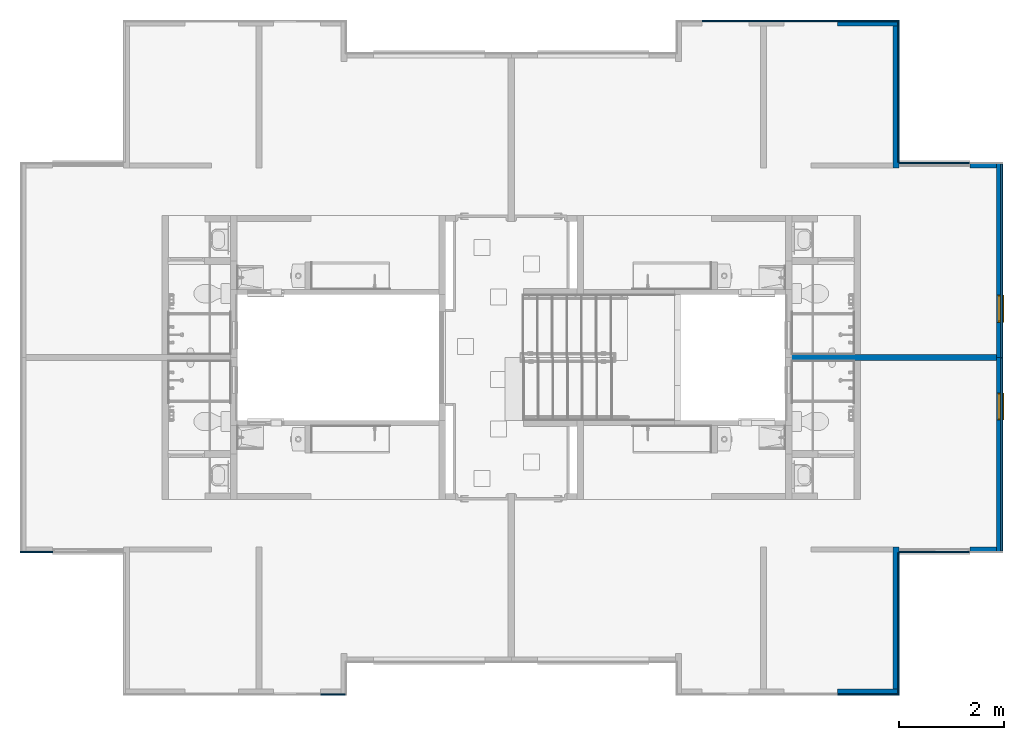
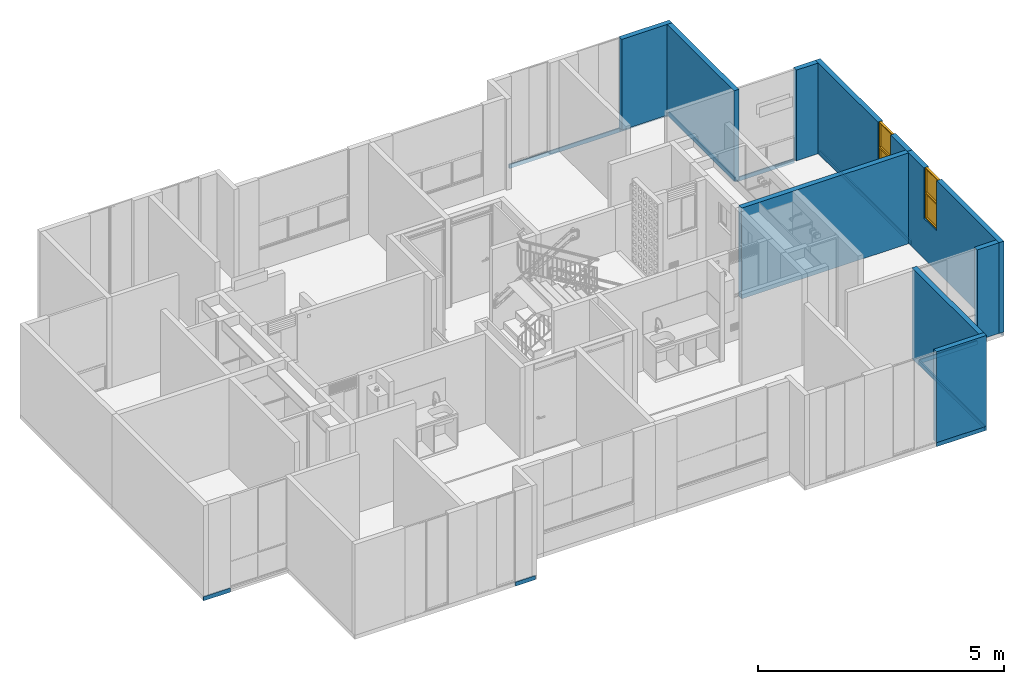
# One storey, part 26 of 48: 20 walls, 2 windows, 2 openings.
"""IFC4 building model written with IfcOpenShell, lengths in metres."""

from ifc_helpers import new_model, entity, si_unit, converted_unit, derived_unit, direction, frame, origin, place, context, subcontext, project, spatial, indexed_curve, outline, extrude, polygons, source, transform, mapped, material, constituent, constituent_set, type_object, type_shapes, element, fill, save


model = new_model("IFC4")

# Units and contexts
model_context = context("Model", 3, precision=1e-05, world=origin(), true_north=direction((6.123031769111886e-17, 1.0)))
body_context = subcontext(model_context, "Body", "Model", "MODEL_VIEW")
ifc_project = project(units=[si_unit("LENGTHUNIT", "METRE"), si_unit("AREAUNIT", "SQUARE_METRE"), si_unit("VOLUMEUNIT", "CUBIC_METRE"), converted_unit("PLANEANGLEUNIT", "DEGREE", entity("IfcRatioMeasure", 0.017453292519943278), si_unit("PLANEANGLEUNIT", "RADIAN"), dimensions=[0, 0, 0, 0, 0, 0, 0]), si_unit("MASSUNIT", "GRAM", prefix="KILO"), derived_unit("MASSDENSITYUNIT", [(si_unit("MASSUNIT", "GRAM", prefix="KILO"), 1), (si_unit("LENGTHUNIT", "METRE"), -3)]), derived_unit("IONCONCENTRATIONUNIT", [(si_unit("MASSUNIT", "GRAM", prefix="KILO"), 1), (si_unit("LENGTHUNIT", "METRE"), -3)]), derived_unit("MOMENTOFINERTIAUNIT", [(si_unit("LENGTHUNIT", "METRE"), 4)]), si_unit("TIMEUNIT", "SECOND"), si_unit("FREQUENCYUNIT", "HERTZ"), si_unit("THERMODYNAMICTEMPERATUREUNIT", "DEGREE_CELSIUS"), derived_unit("THERMALTRANSMITTANCEUNIT", [(si_unit("MASSUNIT", "GRAM", prefix="KILO"), 1), (si_unit("THERMODYNAMICTEMPERATUREUNIT", "KELVIN"), -1), (si_unit("TIMEUNIT", "SECOND"), -3)]), derived_unit("THERMALCONDUCTANCEUNIT", [(si_unit("MASSUNIT", "GRAM", prefix="KILO"), 1), (si_unit("THERMODYNAMICTEMPERATUREUNIT", "KELVIN"), -1), (si_unit("TIMEUNIT", "SECOND"), -3), (si_unit("LENGTHUNIT", "METRE"), 1)]), derived_unit("VOLUMETRICFLOWRATEUNIT", [(si_unit("LENGTHUNIT", "METRE"), 3), (si_unit("TIMEUNIT", "SECOND"), -1)]), derived_unit("MASSFLOWRATEUNIT", [(si_unit("MASSUNIT", "GRAM", prefix="KILO"), 1), (si_unit("TIMEUNIT", "SECOND"), -1)]), derived_unit("ROTATIONALFREQUENCYUNIT", [(si_unit("TIMEUNIT", "SECOND"), -1)]), si_unit("ELECTRICCURRENTUNIT", "AMPERE"), si_unit("ELECTRICVOLTAGEUNIT", "VOLT"), si_unit("POWERUNIT", "WATT"), si_unit("FORCEUNIT", "NEWTON", prefix="KILO"), si_unit("ILLUMINANCEUNIT", "LUX"), si_unit("LUMINOUSFLUXUNIT", "LUMEN"), si_unit("LUMINOUSINTENSITYUNIT", "CANDELA"), derived_unit("USERDEFINED", [(si_unit("MASSUNIT", "GRAM", prefix="KILO"), -1), (si_unit("LENGTHUNIT", "METRE"), -2), (si_unit("TIMEUNIT", "SECOND"), 3), (si_unit("LUMINOUSFLUXUNIT", "LUMEN"), 1)]), derived_unit("USERDEFINED", [(si_unit("MASSUNIT", "GRAM", prefix="KILO"), 1), (si_unit("TIMEUNIT", "SECOND"), -3), (si_unit("LENGTHUNIT", "METRE"), 3), (si_unit("ELECTRICCURRENTUNIT", "AMPERE"), -2)]), derived_unit("SOUNDPOWERUNIT", [(si_unit("MASSUNIT", "GRAM", prefix="KILO"), 1), (si_unit("TIMEUNIT", "SECOND"), -3), (si_unit("LENGTHUNIT", "METRE"), 2)]), derived_unit("SOUNDPRESSUREUNIT", [(si_unit("MASSUNIT", "GRAM", prefix="KILO"), 1), (si_unit("LENGTHUNIT", "METRE"), -1), (si_unit("TIMEUNIT", "SECOND"), -2)]), derived_unit("LINEARVELOCITYUNIT", [(si_unit("LENGTHUNIT", "METRE"), 1), (si_unit("TIMEUNIT", "SECOND"), -1)]), si_unit("PRESSUREUNIT", "PASCAL"), derived_unit("USERDEFINED", [(si_unit("MASSUNIT", "GRAM", prefix="KILO"), 1), (si_unit("LENGTHUNIT", "METRE"), -2), (si_unit("TIMEUNIT", "SECOND"), -2)]), derived_unit("LINEARFORCEUNIT", [(si_unit("MASSUNIT", "GRAM", prefix="KILO"), 1), (si_unit("TIMEUNIT", "SECOND"), -2)]), derived_unit("PLANARFORCEUNIT", [(si_unit("MASSUNIT", "GRAM", prefix="KILO"), 1), (si_unit("LENGTHUNIT", "METRE"), -1), (si_unit("TIMEUNIT", "SECOND"), -2)]), derived_unit("SPECIFICHEATCAPACITYUNIT", [(si_unit("THERMODYNAMICTEMPERATUREUNIT", "KELVIN"), -1), (si_unit("LENGTHUNIT", "METRE"), 2), (si_unit("TIMEUNIT", "SECOND"), -2)]), derived_unit("HEATINGVALUEUNIT", [(si_unit("LENGTHUNIT", "METRE"), 2), (si_unit("TIMEUNIT", "SECOND"), -2)]), derived_unit("VAPORPERMEABILITYUNIT", [(si_unit("LENGTHUNIT", "METRE"), -1), (si_unit("TIMEUNIT", "SECOND"), 1)]), derived_unit("DYNAMICVISCOSITYUNIT", [(si_unit("MASSUNIT", "GRAM", prefix="KILO"), 1), (si_unit("TIMEUNIT", "SECOND"), -1), (si_unit("LENGTHUNIT", "METRE"), -1)]), derived_unit("THERMALEXPANSIONCOEFFICIENTUNIT", [(si_unit("THERMODYNAMICTEMPERATUREUNIT", "KELVIN"), -1)]), derived_unit("MODULUSOFELASTICITYUNIT", [(si_unit("MASSUNIT", "GRAM", prefix="KILO"), 1), (si_unit("LENGTHUNIT", "METRE"), -1), (si_unit("TIMEUNIT", "SECOND"), -2)]), derived_unit("ISOTHERMALMOISTURECAPACITYUNIT", [(si_unit("LENGTHUNIT", "METRE"), 3), (si_unit("MASSUNIT", "GRAM", prefix="KILO"), -1)]), derived_unit("MOISTUREDIFFUSIVITYUNIT", [(si_unit("TIMEUNIT", "SECOND"), -1), (si_unit("LENGTHUNIT", "METRE"), 2)])], contexts=[model_context])

# Site, building, storey
site_placement = place(None, origin())
site = spatial("IfcSite", under=ifc_project, at=site_placement, Name="Default", CompositionType="ELEMENT")
building_placement = place(site_placement, origin())
building = spatial("IfcBuilding", under=site, at=building_placement, CompositionType="ELEMENT")
storey_placement = place(building_placement, frame((0.0, 0.0, 7.050000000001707)))
storey = spatial("IfcBuildingStorey", under=building, at=storey_placement, Name="Nivel 4", CompositionType="ELEMENT", Elevation=7.050000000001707)

# Wall
ifc_material_1 = material(Name="Concreto (Aire)", Category="Materials")
wall_type_1 = type_object("IfcWallType", Name="Basic Wall:B2010 - 0.12m - Muro interior en concreto", PredefinedType="STANDARD")
wall_1_placement = place(storey_placement, frame((18.587500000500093, -6.425000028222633, 0.0), z_axis=(0.0, 0.0, 1.0), x_axis=(-1.0, 0.0, 0.0)))
element("IfcWall", 1, at=wall_1_placement, inside=storey, type_object=wall_type_1, material=ifc_material_1, Name="Basic Wall:B2010 - 0.12m - Muro interior en concreto", ObjectType="Basic Wall:B2010 - 0.12m - Muro interior en concreto", PredefinedType="NOTDEFINED", context=body_context, shape_type="SweptSolid", body=[
    extrude(outline(indexed_curve([(3.914999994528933, 0.06000000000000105), (1.8965521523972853e-16, 0.060000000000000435), (-1.8965521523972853e-16, -0.060000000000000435), (3.914999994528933, -0.05999999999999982), (3.914999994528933, 0.06000000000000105)], self_intersect=False)), origin(), (0.0, 0.0, 1.0), 2.2500000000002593),
])

# Wall, opening, window
ifc_material_2 = material(Name="Ladrillo claro (Aire)", Category="Materials")
wall_type_2 = type_object("IfcWallType", Name="Basic Wall:B2010 - 0.115m - Muro exterior en mampostería - Ladrillo", PredefinedType="STANDARD")
wall_2_placement = place(storey_placement, frame((18.64500000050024, -2.695000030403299, 0.0), z_axis=(0.0, 0.0, 1.0), x_axis=(0.0, -1.0, 0.0)))
wall_2 = element("IfcWall", 2, at=wall_2_placement, inside=storey, type_object=wall_type_2, material=ifc_material_2, Name="Basic Wall:B2010 - 0.115m - Muro exterior en mampostería - Ladrillo", ObjectType="Basic Wall:B2010 - 0.115m - Muro exterior en mampostería - Ladrillo", PredefinedType="NOTDEFINED", context=body_context, shape_type="Tessellation", body=[
    polygons([(3.729999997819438, -0.05750000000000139, 2.2500000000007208), (3.056249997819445, -0.05749999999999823, 2.2500000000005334), (3.056249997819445, -0.05749999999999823, 1.000000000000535), (2.536249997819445, -0.057500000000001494, 1.000000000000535), (2.536249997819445, -0.057500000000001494, 2.250000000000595), (5.414335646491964e-16, -0.05749999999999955, 2.2500000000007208), (5.414335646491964e-16, -0.05749999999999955, 0.0), (3.729999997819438, -0.05750000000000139, 0.0), (3.0562499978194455, 0.05750000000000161, 1.000000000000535), (3.0562499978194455, 0.05750000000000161, 2.2500000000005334), (3.7299999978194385, 0.05750000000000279, 2.2500000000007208), (3.7299999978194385, 0.05750000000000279, 0.0), (5.414335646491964e-16, 0.057500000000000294, 0.0), (5.414335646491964e-16, 0.057500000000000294, 2.2500000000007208), (2.5362499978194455, 0.05750000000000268, 2.250000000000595), (2.5362499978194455, 0.05750000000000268, 1.000000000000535)], [[[1, 2, 3, 4, 5, 6, 7, 8]], [[9, 10, 11, 12, 13, 14, 15, 16]], [[8, 7, 13, 12]], [[1, 8, 12, 11]], [[11, 10, 2, 1]], [[7, 6, 14, 13]], [[5, 4, 16, 15]], [[3, 2, 10, 9]], [[4, 3, 9, 16]], [[15, 14, 6, 5]]], closed=True),
])
opening_1_placement = place(wall_2_placement, frame((2.5362499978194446, -0.057500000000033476, 1.0)))
opening_1 = element("IfcOpeningElement", 3, at=opening_1_placement, cuts=wall_2, Name="B2020 - Ventana batiente - Aluminio + Vidrio:B2020 -0.52m x 1.1.25m - Ventana batiente 2C - Aluminio + Vidrio:1", PredefinedType="OPENING", context=body_context, shape_type="SweptSolid", body=[
    extrude(outline(indexed_curve([(0.0, -1.3535839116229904e-16), (1.2499999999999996, -1.3535839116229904e-16), (1.2499999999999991, 0.5199999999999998), (0.0, 0.5199999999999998), (0.0, -1.3535839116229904e-16)], self_intersect=False)), frame((0.0, 0.0, 0.0), z_axis=(0.0, 1.0, 0.0), x_axis=(0.0, 0.0, 1.0)), (0.0, 0.0, 1.0), 0.115),
])
ifc_material_3 = material(Name="Vidrio", Category="Materials")
ifc_constituent_1 = constituent(ifc_material_3, Name="Vidrio", Category="Materials")
ifc_material_4 = material(Name="Aluminio", Category="Materials")
ifc_constituent_2 = constituent(ifc_material_4, Name="Aluminio", Category="Materials")
ifc_material_5 = material(Name="<Unnamed>")
ifc_constituent_3 = constituent(ifc_material_5, Name="<Unnamed>")
ifc_constituent_set_1 = constituent_set(constituents=[ifc_constituent_1, ifc_constituent_2, ifc_constituent_3])
ifc_constituent_4 = constituent(ifc_material_3, Name="Vidrio", Category="Materials")
ifc_constituent_5 = constituent(ifc_material_4, Name="Aluminio", Category="Materials")
ifc_constituent_6 = constituent(ifc_material_5, Name="<Unnamed>")
ifc_constituent_set_2 = constituent_set(constituents=[ifc_constituent_4, ifc_constituent_5, ifc_constituent_6])
window_type_1 = type_object("IfcWindowType", Name="B2020 - Ventana batiente - Aluminio + Vidrio:B2020 -0.52m x 1.1.25m - Ventana batiente 2C - Aluminio + Vidrio", PartitioningType="NOTDEFINED", PredefinedType="WINDOW", material=ifc_constituent_set_2)
shared_shape_1 = source(origin(), body_context, "Body", "SweptSolid", [
    extrude(outline(indexed_curve([(-0.0020000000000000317, -0.2400000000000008), (0.0019999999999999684, -0.2400000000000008), (0.0020000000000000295, 0.2400000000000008), (-0.0019999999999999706, 0.2400000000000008), (-0.0020000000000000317, -0.2400000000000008)], self_intersect=False)), frame((0.26000000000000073, 0.07013901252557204, 0.01999999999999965), z_axis=(0.0, 0.0, 1.0), x_axis=(0.0, -1.0, 0.0)), (0.0, 0.0, 1.0), 0.585),
    extrude(outline(indexed_curve([(-0.3124999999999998, -0.2599999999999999), (0.3124999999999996, -0.2599999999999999), (0.3124999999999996, 0.2599999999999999), (-0.3124999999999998, 0.2599999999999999), (-0.3124999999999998, -0.2599999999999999)], self_intersect=False), holes=[indexed_curve([(0.2924999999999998, -0.24000000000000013), (-0.2925, -0.24000000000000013), (-0.2925, 0.24000000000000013), (0.2924999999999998, 0.24000000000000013), (0.2924999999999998, -0.24000000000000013)], self_intersect=False)]), frame((0.26000000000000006, 0.032499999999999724, 0.3124999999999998), z_axis=(0.0, 1.0, 0.0), x_axis=(0.0, 0.0, 1.0)), (0.0, 0.0, 1.0), 0.05),
    extrude(outline(indexed_curve([(-0.0020000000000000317, -0.2400000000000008), (0.0019999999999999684, -0.2400000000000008), (0.0020000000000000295, 0.2400000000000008), (-0.0019999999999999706, 0.2400000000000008), (-0.0020000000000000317, -0.2400000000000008)], self_intersect=False)), frame((0.25999999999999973, 0.07013901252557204, 0.6449999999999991), z_axis=(0.0, 0.0, 1.0), x_axis=(0.0, -1.0, 0.0)), (0.0, 0.0, 1.0), 0.585),
    extrude(outline(indexed_curve([(-0.3124999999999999, -0.2599999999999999), (0.3124999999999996, -0.2599999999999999), (0.3124999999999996, 0.25999999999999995), (-0.3124999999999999, 0.2599999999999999), (-0.3124999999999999, -0.2599999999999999)], self_intersect=False), holes=[indexed_curve([(0.2924999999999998, -0.24000000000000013), (-0.2925000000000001, -0.24000000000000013), (-0.2925000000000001, 0.24000000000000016), (0.2924999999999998, 0.24000000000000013), (0.2924999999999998, -0.24000000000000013)], self_intersect=False)]), frame((0.259999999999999, 0.032499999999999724, 0.9374999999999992), z_axis=(0.0, 1.0, 0.0), x_axis=(0.0, 0.0, 1.0)), (0.0, 0.0, 1.0), 0.05),
    extrude(outline(indexed_curve([(2.1899534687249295e-05, 0.0030283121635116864), (0.03002189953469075, 0.0030283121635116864), (0.030021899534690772, 0.008028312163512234), (-0.0013178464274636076, 0.00802831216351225), (-0.030623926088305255, -0.008891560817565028), (-0.02812392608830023, -0.013221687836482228), (2.1899534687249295e-05, 0.0030283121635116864)], self_intersect=False)), frame((0.0, 0.11346687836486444, -0.002611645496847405), z_axis=(1.0, 0.0, 0.0), x_axis=(0.0, 0.8660254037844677, -0.4999999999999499)), (0.0, 0.0, 1.0), 0.520000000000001),
])
type_shapes(window_type_1, [shared_shape_1])
window_1_placement = place(opening_1_placement, origin())
window_1 = element("IfcWindow", 4, at=window_1_placement, inside=storey, type_object=window_type_1, material=ifc_constituent_set_1, Name="B2020 - Ventana batiente - Aluminio + Vidrio:B2020 -0.52m x 1.1.25m - Ventana batiente 2C - Aluminio + Vidrio", ObjectType="B2020 - Ventana batiente - Aluminio + Vidrio:B2020 -0.52m x 1.1.25m - Ventana batiente 2C - Aluminio + Vidrio", OverallHeight=1.2499999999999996, OverallWidth=0.5199999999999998, PartitioningType="NOTDEFINED", PredefinedType="WINDOW", context=body_context, shape_type="MappedRepresentation", body=[
    mapped(shared_shape_1, transform((0.0, 0.0, 0.0), scale=1.0)),
])
fill(opening_1, window_1)

# Wall
wall_3_placement = place(storey_placement, frame((16.670000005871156, -2.8100000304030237, 0.0), z_axis=(0.0, 0.0, 1.0), x_axis=(0.0, 1.0, 0.0)))
element("IfcWall", 5, at=wall_3_placement, inside=storey, type_object=wall_type_2, material=ifc_material_2, Name="Basic Wall:B2010 - 0.115m - Muro exterior en mampostería - Ladrillo", ObjectType="Basic Wall:B2010 - 0.115m - Muro exterior en mampostería - Ladrillo", PredefinedType="NOTDEFINED", context=body_context, shape_type="SweptSolid", body=[
    extrude(outline(indexed_curve([(2.7150000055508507, 0.057499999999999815), (1.0301981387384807e-16, 0.057499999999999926), (-1.0301981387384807e-16, -0.057499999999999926), (2.7150000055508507, -0.05750000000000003), (2.7150000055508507, 0.057499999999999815)], self_intersect=False)), origin(), (0.0, 0.0, 1.0), 2.2500000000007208),
])

# Wall, opening, window
wall_4_placement = place(storey_placement, frame((18.645000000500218, -10.15500002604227, 0.0), z_axis=(0.0, 0.0, 1.0), x_axis=(0.0, 1.0, 0.0)))
wall_4 = element("IfcWall", 6, at=wall_4_placement, inside=storey, type_object=wall_type_2, material=ifc_material_2, Name="Basic Wall:B2010 - 0.115m - Muro exterior en mampostería - Ladrillo", ObjectType="Basic Wall:B2010 - 0.115m - Muro exterior en mampostería - Ladrillo", PredefinedType="NOTDEFINED", context=body_context, shape_type="Tessellation", body=[
    polygons([(3.729999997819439, -0.05750000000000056, 2.2500000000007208), (3.05624999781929, -0.05749999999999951, 2.2500000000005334), (3.05624999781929, -0.05749999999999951, 1.000000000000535), (2.5362499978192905, -0.05749999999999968, 1.000000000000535), (2.5362499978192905, -0.05749999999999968, 2.250000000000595), (0.0, -0.057499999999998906, 2.2500000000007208), (0.0, -0.057499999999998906, 0.0), (3.729999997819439, -0.05750000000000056, 0.0), (3.056249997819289, 0.057500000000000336, 1.000000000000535), (3.056249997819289, 0.057500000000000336, 2.2500000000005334), (3.729999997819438, 0.05750000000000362, 2.2500000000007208), (3.729999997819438, 0.05750000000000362, 0.0), (0.0, 0.05750000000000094, 0.0), (0.0, 0.05750000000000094, 2.2500000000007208), (2.5362499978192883, 0.05750000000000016, 2.250000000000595), (2.5362499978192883, 0.05750000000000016, 1.000000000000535)], [[[1, 2, 3, 4, 5, 6, 7, 8]], [[9, 10, 11, 12, 13, 14, 15, 16]], [[8, 7, 13, 12]], [[1, 8, 12, 11]], [[11, 10, 2, 1]], [[7, 6, 14, 13]], [[5, 4, 16, 15]], [[3, 2, 10, 9]], [[4, 3, 9, 16]], [[15, 14, 6, 5]]], closed=True),
])
opening_2_placement = place(wall_4_placement, frame((3.056249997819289, 0.05750000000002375, 1.0)))
opening_2 = element("IfcOpeningElement", 7, at=opening_2_placement, cuts=wall_4, Name="B2020 - Ventana batiente - Aluminio + Vidrio:B2020 -0.52m x 1.1.25m - Ventana batiente 2C - Aluminio + Vidrio:1", PredefinedType="OPENING", context=body_context, shape_type="SweptSolid", body=[
    extrude(outline(indexed_curve([(0.0, 0.5199999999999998), (0.0, 0.0), (1.2499999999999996, 0.0), (1.2499999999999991, 0.5199999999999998), (0.0, 0.5199999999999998)], self_intersect=False)), frame((0.0, 0.0, 0.0), z_axis=(0.0, -1.0, 0.0), x_axis=(0.0, 0.0, 1.0)), (0.0, 0.0, 1.0), 0.115),
])
ifc_constituent_7 = constituent(ifc_material_3, Name="Vidrio", Category="Materials")
ifc_constituent_8 = constituent(ifc_material_4, Name="Aluminio", Category="Materials")
ifc_constituent_9 = constituent(ifc_material_5, Name="<Unnamed>")
ifc_constituent_set_3 = constituent_set(constituents=[ifc_constituent_7, ifc_constituent_8, ifc_constituent_9])
ifc_constituent_10 = constituent(ifc_material_3, Name="Vidrio", Category="Materials")
ifc_constituent_11 = constituent(ifc_material_4, Name="Aluminio", Category="Materials")
ifc_constituent_12 = constituent(ifc_material_5, Name="<Unnamed>")
ifc_constituent_set_4 = constituent_set(constituents=[ifc_constituent_10, ifc_constituent_11, ifc_constituent_12])
window_type_2 = type_object("IfcWindowType", Name="B2020 - Ventana batiente - Aluminio + Vidrio:B2020 -0.52m x 1.1.25m - Ventana batiente 2C - Aluminio + Vidrio", PartitioningType="NOTDEFINED", PredefinedType="WINDOW", material=ifc_constituent_set_4)
shared_shape_2 = source(origin(), body_context, "Body", "SweptSolid", [
    extrude(outline(indexed_curve([(-0.2400000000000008, -0.001999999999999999), (0.2400000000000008, -0.001999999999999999), (0.2400000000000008, 0.0020000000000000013), (-0.2400000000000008, 0.0020000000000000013), (-0.2400000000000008, -0.001999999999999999)], self_intersect=False)), frame((0.26000000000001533, 0.07013901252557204, 0.01999999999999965), z_axis=(0.0, 0.0, 1.0), x_axis=(-1.0, 0.0, 0.0)), (0.0, 0.0, 1.0), 0.585),
    extrude(outline(indexed_curve([(-0.2599999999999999, -0.3124999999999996), (0.2599999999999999, -0.3124999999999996), (0.2599999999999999, 0.3124999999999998), (-0.2599999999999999, 0.3124999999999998), (-0.2599999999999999, -0.3124999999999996)], self_intersect=False), holes=[indexed_curve([(-0.24000000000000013, 0.2925), (0.24000000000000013, 0.2925), (0.24000000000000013, -0.2924999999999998), (-0.24000000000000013, -0.2924999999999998), (-0.24000000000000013, 0.2925)], self_intersect=False)]), frame((0.260000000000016, 0.08249999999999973, 0.3124999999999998), z_axis=(0.0, -1.0, 0.0), x_axis=(-1.0, 0.0, 0.0)), (0.0, 0.0, 1.0), 0.05),
    extrude(outline(indexed_curve([(-0.2400000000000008, -0.001999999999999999), (0.2400000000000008, -0.001999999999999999), (0.2400000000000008, 0.0020000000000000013), (-0.2400000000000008, 0.0020000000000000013), (-0.2400000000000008, -0.001999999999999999)], self_intersect=False)), frame((0.2600000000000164, 0.07013901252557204, 0.6449999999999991), z_axis=(0.0, 0.0, 1.0), x_axis=(-1.0, 0.0, 0.0)), (0.0, 0.0, 1.0), 0.585),
    extrude(outline(indexed_curve([(-0.2599999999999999, -0.3124999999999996), (0.2599999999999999, -0.3124999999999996), (0.2599999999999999, 0.3124999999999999), (-0.2599999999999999, 0.3124999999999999), (-0.2599999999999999, -0.3124999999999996)], self_intersect=False), holes=[indexed_curve([(-0.24000000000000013, 0.2925000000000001), (0.24000000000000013, 0.2925000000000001), (0.24000000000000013, -0.2924999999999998), (-0.24000000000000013, -0.2924999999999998), (-0.24000000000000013, 0.2925000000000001)], self_intersect=False)]), frame((0.26000000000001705, 0.08249999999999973, 0.9374999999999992), z_axis=(0.0, -1.0, 0.0), x_axis=(-1.0, 0.0, 0.0)), (0.0, 0.0, 1.0), 0.05),
    extrude(outline(indexed_curve([(-0.0015331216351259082, 0.002611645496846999), (0.030966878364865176, 0.002611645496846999), (0.030966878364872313, 0.007611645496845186), (-0.0028728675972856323, 0.007611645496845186), (-0.030013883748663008, -0.008058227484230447), (-0.027513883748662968, -0.012388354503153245), (-0.0015331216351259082, 0.002611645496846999)], self_intersect=False)), frame((0.5200000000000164, 0.11346687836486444, -0.002611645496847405), z_axis=(-1.0, 0.0, 0.0), x_axis=(0.0, -1.0, 0.0)), (0.0, 0.0, 1.0), 0.5200000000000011),
])
type_shapes(window_type_2, [shared_shape_2])
window_2_placement = place(opening_2_placement, frame((0.0, 0.0, 0.0), z_axis=(0.0, 0.0, 1.0), x_axis=(-1.0, 0.0, 0.0)))
window_2 = element("IfcWindow", 8, at=window_2_placement, inside=storey, type_object=window_type_2, material=ifc_constituent_set_3, Name="B2020 - Ventana batiente - Aluminio + Vidrio:B2020 -0.52m x 1.1.25m - Ventana batiente 2C - Aluminio + Vidrio", ObjectType="B2020 - Ventana batiente - Aluminio + Vidrio:B2020 -0.52m x 1.1.25m - Ventana batiente 2C - Aluminio + Vidrio", OverallHeight=1.2499999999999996, OverallWidth=0.5199999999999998, PartitioningType="NOTDEFINED", PredefinedType="WINDOW", context=body_context, shape_type="MappedRepresentation", body=[
    mapped(shared_shape_2, transform((0.0, 0.0, 0.0), scale=1.0)),
])
fill(opening_2, window_2)

# Walls
wall_5_placement = place(storey_placement, frame((16.670000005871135, -10.040000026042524, 0.0), z_axis=(0.0, 0.0, 1.0), x_axis=(0.0, -1.0, 0.0)))
element("IfcWall", 9, at=wall_5_placement, inside=storey, type_object=wall_type_2, material=ifc_material_2, Name="Basic Wall:B2010 - 0.115m - Muro exterior en mampostería - Ladrillo", ObjectType="Basic Wall:B2010 - 0.115m - Muro exterior en mampostería - Ladrillo", PredefinedType="NOTDEFINED", context=body_context, shape_type="SweptSolid", body=[
    extrude(outline(indexed_curve([(2.7150000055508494, 0.05750000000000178), (-1.0024667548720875e-15, 0.057499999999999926), (1.0024667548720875e-15, -0.057499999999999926), (2.7150000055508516, -0.057499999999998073), (2.7150000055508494, 0.05750000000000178)], self_intersect=False)), origin(), (0.0, 0.0, 1.0), 2.2500000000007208),
])
ifc_material_6 = material(Name="LADRILLO CLARO", Category="Materials")
wall_type_3 = type_object("IfcWallType", Name="Basic Wall:B2010 - 0.115m - ME mampostería no estructural - Ladrillo", PredefinedType="STANDARD")
wall_6_placement = place(storey_placement, frame((18.58750000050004, -2.7525000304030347, 0.0), z_axis=(0.0, 0.0, 1.0), x_axis=(-1.0, 0.0, 0.0)))
element("IfcWall", 10, at=wall_6_placement, inside=storey, type_object=wall_type_3, material=ifc_material_6, Name="Basic Wall:B2010 - 0.115m - ME mampostería no estructural - Ladrillo", ObjectType="Basic Wall:B2010 - 0.115m - ME mampostería no estructural - Ladrillo", PredefinedType="NOTDEFINED", context=body_context, shape_type="SweptSolid", body=[
    extrude(outline(indexed_curve([(0.5099999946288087, 0.05749999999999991), (-1.8225877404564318e-16, 0.057499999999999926), (1.8225877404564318e-16, -0.057499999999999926), (0.5099999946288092, -0.05749999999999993), (0.5099999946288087, 0.05749999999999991)], self_intersect=False)), origin(), (0.0, 0.0, 1.0), 2.2500000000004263),
])
wall_7_placement = place(storey_placement, frame((18.587500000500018, -10.097500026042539, 0.0), z_axis=(0.0, 0.0, 1.0), x_axis=(-1.0, 0.0, 0.0)))
element("IfcWall", 11, at=wall_7_placement, inside=storey, type_object=wall_type_3, material=ifc_material_6, Name="Basic Wall:B2010 - 0.115m - ME mampostería no estructural - Ladrillo", ObjectType="Basic Wall:B2010 - 0.115m - ME mampostería no estructural - Ladrillo", PredefinedType="NOTDEFINED", context=body_context, shape_type="SweptSolid", body=[
    extrude(outline(indexed_curve([(0.5099999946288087, 0.05749999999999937), (-1.82274758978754e-16, 0.057499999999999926), (1.82274758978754e-16, -0.057499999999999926), (0.5099999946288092, -0.057500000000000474), (0.5099999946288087, 0.05749999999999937)], self_intersect=False)), origin(), (0.0, 0.0, 1.0), 2.2500000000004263),
])
wall_8_placement = place(storey_placement, frame((15.553300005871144, -12.812500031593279, 0.0)))
element("IfcWall", 12, at=wall_8_placement, inside=storey, type_object=wall_type_3, material=ifc_material_6, Name="Basic Wall:B2010 - 0.115m - ME mampostería no estructural - Ladrillo", ObjectType="Basic Wall:B2010 - 0.115m - ME mampostería no estructural - Ladrillo", PredefinedType="NOTDEFINED", context=body_context, shape_type="SweptSolid", body=[
    extrude(outline(indexed_curve([(1.174199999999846, 0.0574999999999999), (3.1925536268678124e-16, 0.057499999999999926), (-3.1925536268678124e-16, -0.057499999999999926), (1.1741999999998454, -0.05749999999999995), (1.174199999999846, 0.0574999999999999)], self_intersect=False)), origin(), (0.0, 0.0, 1.0), 2.2500000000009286),
])
wall_9_placement = place(storey_placement, frame((15.553300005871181, -0.037500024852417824, 0.0)))
element("IfcWall", 13, at=wall_9_placement, inside=storey, type_object=wall_type_3, material=ifc_material_6, Name="Basic Wall:B2010 - 0.115m - ME mampostería no estructural - Ladrillo", ObjectType="Basic Wall:B2010 - 0.115m - ME mampostería no estructural - Ladrillo", PredefinedType="NOTDEFINED", context=body_context, shape_type="SweptSolid", body=[
    extrude(outline(indexed_curve([(1.174199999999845, 0.05749999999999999), (-6.892764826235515e-16, 0.0575), (6.892764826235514e-16, -0.05749999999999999), (1.1741999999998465, -0.05749999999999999), (1.174199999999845, 0.05749999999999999)], self_intersect=False)), origin(), (0.0, 0.0, 1.0), 2.2500000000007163),
])
wall_type_4 = type_object("IfcWallType", Name="Basic Wall:B2010 - 0.03m - ME enchape  no estructural - Ladrillo", PredefinedType="STANDARD")
wall_10_placement = place(storey_placement, frame((6.152499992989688, -12.855000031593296, -0.10000000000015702), z_axis=(0.0, 0.0, 1.0), x_axis=(-1.0, 0.0, 0.0)))
element("IfcWall", 14, at=wall_10_placement, inside=storey, type_object=wall_type_4, material=ifc_material_6, Name="Basic Wall:B2010 - 0.03m - ME enchape  no estructural - Ladrillo", ObjectType="Basic Wall:B2010 - 0.03m - ME enchape  no estructural - Ladrillo", PredefinedType="NOTDEFINED", context=body_context, shape_type="SweptSolid", body=[
    extrude(outline(indexed_curve([(0.4700000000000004, 0.015000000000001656), (4.570130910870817e-17, 0.015000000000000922), (-4.570130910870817e-17, -0.015000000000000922), (0.4700000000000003, -0.015000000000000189), (0.4700000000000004, 0.015000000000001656)], self_intersect=False)), origin(), (0.0, 0.0, 1.0), 0.09999999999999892),
])
wall_11_placement = place(storey_placement, frame((-0.057499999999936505, -10.140000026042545, -0.10000000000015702)))
element("IfcWall", 15, at=wall_11_placement, inside=storey, type_object=wall_type_4, material=ifc_material_6, Name="Basic Wall:B2010 - 0.03m - ME enchape  no estructural - Ladrillo", ObjectType="Basic Wall:B2010 - 0.03m - ME enchape  no estructural - Ladrillo", PredefinedType="NOTDEFINED", context=body_context, shape_type="SweptSolid", body=[
    extrude(outline(indexed_curve([(0.6249999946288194, 0.015000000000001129), (2.3382102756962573e-18, 0.015000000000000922), (-2.3382102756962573e-18, -0.015000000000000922), (0.6249999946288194, -0.015000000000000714), (0.6249999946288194, 0.015000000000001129)], self_intersect=False)), origin(), (0.0, 0.0, 1.0), 0.09999999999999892),
])
wall_12_placement = place(storey_placement, frame((16.71250000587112, -0.010000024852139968, -0.10000000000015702), z_axis=(0.0, 0.0, 1.0), x_axis=(0.0, -1.0, 0.0)))
element("IfcWall", 16, at=wall_12_placement, inside=storey, type_object=wall_type_4, material=ifc_material_6, Name="Basic Wall:B2010 - 0.03m - ME enchape  no estructural - Ladrillo", ObjectType="Basic Wall:B2010 - 0.03m - ME enchape  no estructural - Ladrillo", PredefinedType="NOTDEFINED", context=body_context, shape_type="SweptSolid", body=[
    extrude(outline(indexed_curve([(2.683660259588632, 0.015000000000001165), (1.7027254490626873e-18, 0.015000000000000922), (-1.7027254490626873e-18, -0.015000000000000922), (2.683660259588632, -0.015000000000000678), (2.683660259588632, 0.015000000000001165)], self_intersect=False)), origin(), (0.0, 0.0, 1.0), 0.09999999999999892),
])
wall_13_placement = place(storey_placement, frame((18.6875000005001, -2.725000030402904, -0.10000000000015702), z_axis=(0.0, 0.0, 1.0), x_axis=(0.0, -1.0, 0.0)))
element("IfcWall", 17, at=wall_13_placement, inside=storey, type_object=wall_type_4, material=ifc_material_6, Name="Basic Wall:B2010 - 0.03m - ME enchape  no estructural - Ladrillo", ObjectType="Basic Wall:B2010 - 0.03m - ME enchape  no estructural - Ladrillo", PredefinedType="NOTDEFINED", context=body_context, shape_type="SweptSolid", body=[
    extrude(outline(indexed_curve([(3.699999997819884, 0.015000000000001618), (-7.306011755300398e-17, 0.015000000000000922), (7.306011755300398e-17, -0.015000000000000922), (3.699999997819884, -0.015000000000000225), (3.699999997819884, 0.015000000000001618)], self_intersect=False)), origin(), (0.0, 0.0, 1.0), 0.09999999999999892),
])
wall_14_placement = place(storey_placement, frame((16.712500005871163, -12.840000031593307, -0.10000000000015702), z_axis=(0.0, 0.0, 1.0), x_axis=(0.0, 1.0, 0.0)))
element("IfcWall", 18, at=wall_14_placement, inside=storey, type_object=wall_type_4, material=ifc_material_6, Name="Basic Wall:B2010 - 0.03m - ME enchape  no estructural - Ladrillo", ObjectType="Basic Wall:B2010 - 0.03m - ME enchape  no estructural - Ladrillo", PredefinedType="NOTDEFINED", context=body_context, shape_type="SweptSolid", body=[
    extrude(outline(indexed_curve([(2.683660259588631, 0.015000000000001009), (-2.4689444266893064e-17, 0.015000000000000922), (2.4689444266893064e-17, -0.015000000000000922), (2.683660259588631, -0.015000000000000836), (2.683660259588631, 0.015000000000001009)], self_intersect=False)), origin(), (0.0, 0.0, 1.0), 0.09999999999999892),
])
wall_15_placement = place(storey_placement, frame((18.687500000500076, -10.125000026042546, -0.10000000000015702), z_axis=(0.0, 0.0, 1.0), x_axis=(0.0, 1.0, 0.0)))
element("IfcWall", 19, at=wall_15_placement, inside=storey, type_object=wall_type_4, material=ifc_material_6, Name="Basic Wall:B2010 - 0.03m - ME enchape  no estructural - Ladrillo", ObjectType="Basic Wall:B2010 - 0.03m - ME enchape  no estructural - Ladrillo", PredefinedType="NOTDEFINED", context=body_context, shape_type="SweptSolid", body=[
    extrude(outline(indexed_curve([(3.699999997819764, 0.015000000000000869), (-2.6129816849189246e-17, 0.015000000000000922), (2.6129816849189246e-17, -0.015000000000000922), (3.699999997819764, -0.015000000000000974), (3.699999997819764, 0.015000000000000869)], self_intersect=False)), origin(), (0.0, 0.0, 1.0), 0.09999999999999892),
])
wall_16_placement = place(storey_placement, frame((15.552500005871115, 0.004999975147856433, -0.10000000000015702)))
element("IfcWall", 20, at=wall_16_placement, inside=storey, type_object=wall_type_4, material=ifc_material_6, Name="Basic Wall:B2010 - 0.03m - ME enchape  no estructural - Ladrillo", ObjectType="Basic Wall:B2010 - 0.03m - ME enchape  no estructural - Ladrillo", PredefinedType="NOTDEFINED", context=body_context, shape_type="SweptSolid", body=[
    extrude(outline(indexed_curve([(1.1750000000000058, 0.014999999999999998), (4.3864338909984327e-17, 0.015), (-4.3864338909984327e-17, -0.015), (1.1750000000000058, -0.015000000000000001), (1.1750000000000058, 0.014999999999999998)], self_intersect=False)), origin(), (0.0, 0.0, 1.0), 0.09999999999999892),
])
wall_17_placement = place(storey_placement, frame((12.962500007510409, 0.004999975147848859, -0.10000000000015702)))
element("IfcWall", 21, at=wall_17_placement, inside=storey, type_object=wall_type_4, material=ifc_material_6, Name="Basic Wall:B2010 - 0.03m - ME enchape  no estructural - Ladrillo", ObjectType="Basic Wall:B2010 - 0.03m - ME enchape  no estructural - Ladrillo", PredefinedType="NOTDEFINED", context=body_context, shape_type="SweptSolid", body=[
    extrude(outline(indexed_curve([(2.5899999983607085, 0.014999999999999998), (4.3864338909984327e-17, 0.015), (-4.3864338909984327e-17, -0.015), (2.5899999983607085, -0.015000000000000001), (2.5899999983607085, 0.014999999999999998)], self_intersect=False)), origin(), (0.0, 0.0, 1.0), 0.09999999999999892),
])
wall_18_placement = place(storey_placement, frame((15.552500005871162, -12.855000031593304, -0.10000000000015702)))
element("IfcWall", 22, at=wall_18_placement, inside=storey, type_object=wall_type_4, material=ifc_material_6, Name="Basic Wall:B2010 - 0.03m - ME enchape  no estructural - Ladrillo", ObjectType="Basic Wall:B2010 - 0.03m - ME enchape  no estructural - Ladrillo", PredefinedType="NOTDEFINED", context=body_context, shape_type="SweptSolid", body=[
    extrude(outline(indexed_curve([(1.1749999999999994, 0.015000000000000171), (-4.570130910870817e-17, 0.015000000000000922), (4.570130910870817e-17, -0.015000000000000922), (1.1749999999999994, -0.015000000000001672), (1.1749999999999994, 0.015000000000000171)], self_intersect=False)), origin(), (0.0, 0.0, 1.0), 0.09999999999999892),
])
wall_19_placement = place(storey_placement, frame((18.077500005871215, -2.7100000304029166, -0.10000000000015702), z_axis=(0.0, 0.0, 1.0), x_axis=(-1.0, 0.0, 0.0)))
element("IfcWall", 23, at=wall_19_placement, inside=storey, type_object=wall_type_4, material=ifc_material_6, Name="Basic Wall:B2010 - 0.03m - ME enchape  no estructural - Ladrillo", ObjectType="Basic Wall:B2010 - 0.03m - ME enchape  no estructural - Ladrillo", PredefinedType="NOTDEFINED", context=body_context, shape_type="SweptSolid", body=[
    extrude(outline(indexed_curve([(1.3500000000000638, 0.014999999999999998), (3.050576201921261e-16, 0.014999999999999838), (-3.050576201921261e-16, -0.014999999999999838), (1.3500000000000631, -0.01499999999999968), (1.3500000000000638, 0.014999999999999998)], self_intersect=False)), origin(), (0.0, 0.0, 1.0), 0.09999999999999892),
])
wall_20_placement = place(storey_placement, frame((18.077500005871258, -10.140000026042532, -0.10000000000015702), z_axis=(0.0, 0.0, 1.0), x_axis=(-1.0, 0.0, 0.0)))
element("IfcWall", 24, at=wall_20_placement, inside=storey, type_object=wall_type_4, material=ifc_material_6, Name="Basic Wall:B2010 - 0.03m - ME enchape  no estructural - Ladrillo", ObjectType="Basic Wall:B2010 - 0.03m - ME enchape  no estructural - Ladrillo", PredefinedType="NOTDEFINED", context=body_context, shape_type="SweptSolid", body=[
    extrude(outline(indexed_curve([(1.3500000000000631, 0.015000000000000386), (-3.068945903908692e-16, 0.015000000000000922), (3.068945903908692e-16, -0.015000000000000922), (1.3500000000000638, -0.015000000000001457), (1.3500000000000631, 0.015000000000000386)], self_intersect=False)), origin(), (0.0, 0.0, 1.0), 0.09999999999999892),
])

save(model, "model.ifc")
